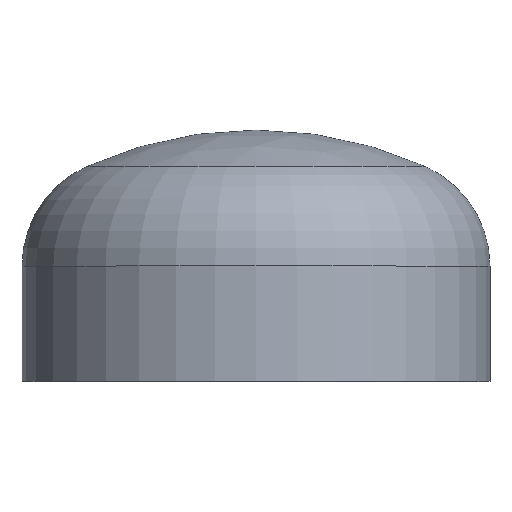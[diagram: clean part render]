
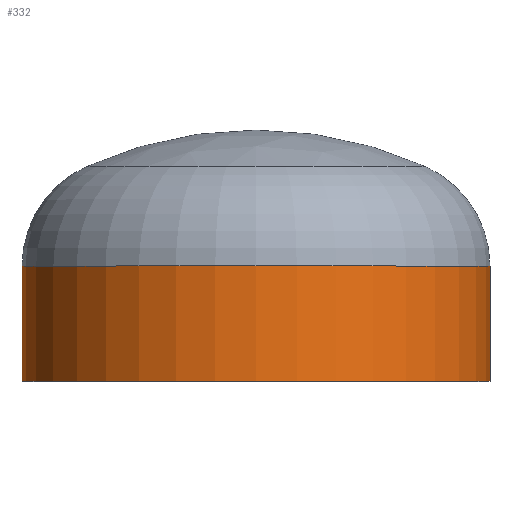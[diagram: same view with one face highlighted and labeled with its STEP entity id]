
A CAD part, top view. The second image highlights one B-rep face of the part: STEP entity #332.
In plain terms, the highlighted cylindrical face has radius 203.2 mm (diameter 406.4 mm), a partial arc.
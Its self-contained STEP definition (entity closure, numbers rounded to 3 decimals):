
#1 = VERTEX_POINT ( 'NONE', #71 ) ;
#6 = ORIENTED_EDGE ( 'NONE', *, *, #58, .T. ) ;
#13 = AXIS2_PLACEMENT_3D ( 'NONE', #234, #266, #204 ) ;
#46 = AXIS2_PLACEMENT_3D ( 'NONE', #410, #396, #342 ) ;
#53 = AXIS2_PLACEMENT_3D ( 'NONE', #285, #128, #316 ) ;
#58 = EDGE_CURVE ( 'NONE', #133, #1, #167, .T. ) ;
#65 = EDGE_CURVE ( 'NONE', #148, #133, #292, .T. ) ;
#71 = CARTESIAN_POINT ( 'NONE',  ( -203.2, 0., 0. ) ) ;
#114 = VERTEX_POINT ( 'NONE', #179 ) ;
#117 = ORIENTED_EDGE ( 'NONE', *, *, #262, .F. ) ;
#127 = EDGE_CURVE ( 'NONE', #148, #114, #393, .T. ) ;
#128 = DIRECTION ( 'NONE',  ( 0., -1., 0. ) ) ;
#133 = VERTEX_POINT ( 'NONE', #268 ) ;
#147 = CARTESIAN_POINT ( 'NONE',  ( 203.2, 0., 0. ) ) ;
#148 = VERTEX_POINT ( 'NONE', #244 ) ;
#149 = EDGE_LOOP ( 'NONE', ( #362, #6, #117, #152 ) ) ;
#152 = ORIENTED_EDGE ( 'NONE', *, *, #127, .F. ) ;
#167 = LINE ( 'NONE', #384, #354 ) ;
#179 = CARTESIAN_POINT ( 'NONE',  ( 203.2, 0., 0. ) ) ;
#191 = FACE_OUTER_BOUND ( 'NONE', #149, .T. ) ;
#204 = DIRECTION ( 'NONE',  ( 1., 0., 0. ) ) ;
#234 = CARTESIAN_POINT ( 'NONE',  ( 0., 0., 0. ) ) ;
#244 = CARTESIAN_POINT ( 'NONE',  ( 203.2, 100., 0. ) ) ;
#261 = DIRECTION ( 'NONE',  ( 0., -1., 0. ) ) ;
#262 = EDGE_CURVE ( 'NONE', #114, #1, #320, .T. ) ;
#266 = DIRECTION ( 'NONE',  ( 0., -1., 0. ) ) ;
#268 = CARTESIAN_POINT ( 'NONE',  ( -203.2, 100., 0. ) ) ;
#285 = CARTESIAN_POINT ( 'NONE',  ( 0., 100., 0. ) ) ;
#292 = CIRCLE ( 'NONE', #53, 203.2 ) ;
#296 = CYLINDRICAL_SURFACE ( 'NONE', #46, 203.2 ) ;
#316 = DIRECTION ( 'NONE',  ( 1., 0., 0. ) ) ;
#320 = CIRCLE ( 'NONE', #13, 203.2 ) ;
#323 = DIRECTION ( 'NONE',  ( 0., -1., 0. ) ) ;
#332 = ADVANCED_FACE ( 'NONE', ( #191 ), #296, .T. ) ;
#333 = VECTOR ( 'NONE', #323, 1000. ) ;
#342 = DIRECTION ( 'NONE',  ( 1., 0., 0. ) ) ;
#354 = VECTOR ( 'NONE', #261, 1000. ) ;
#362 = ORIENTED_EDGE ( 'NONE', *, *, #65, .T. ) ;
#384 = CARTESIAN_POINT ( 'NONE',  ( -203.2, 0., 0. ) ) ;
#393 = LINE ( 'NONE', #147, #333 ) ;
#396 = DIRECTION ( 'NONE',  ( 0., -1., 0. ) ) ;
#410 = CARTESIAN_POINT ( 'NONE',  ( 0., 0., 0. ) ) ;
